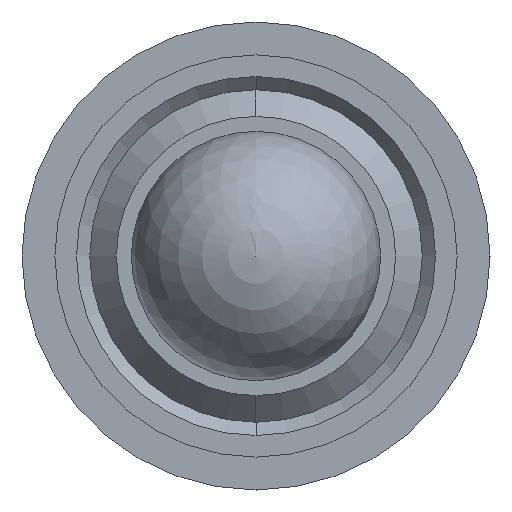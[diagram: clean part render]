
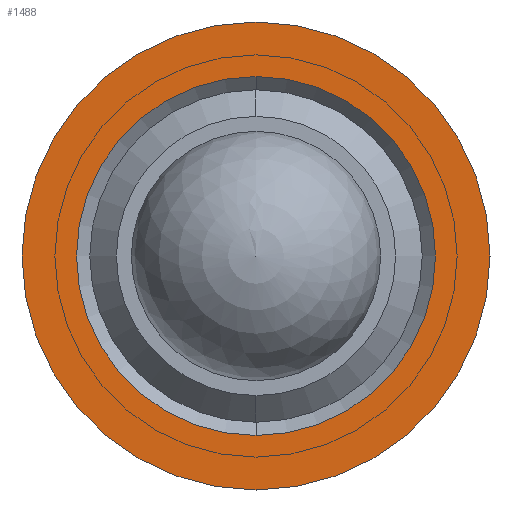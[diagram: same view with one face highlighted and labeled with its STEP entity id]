
A CAD part, left-side view. The second image highlights one B-rep face of the part: STEP entity #1488.
In plain terms, the highlighted planar face has unit normal (-1, 0, 0).
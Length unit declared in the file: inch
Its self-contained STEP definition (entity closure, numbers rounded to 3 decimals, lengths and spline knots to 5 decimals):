
#10 = CARTESIAN_POINT ( 'NONE',  ( 0.60209, 1.99757, 3.07792 ) ) ;
#13 = DIRECTION ( 'NONE',  ( -1., 0., 0. ) ) ;
#46 = CARTESIAN_POINT ( 'NONE',  ( 0.60209, 1.99757, 3.07792 ) ) ;
#55 = CIRCLE ( 'NONE', #1166, 0.135 ) ;
#193 = DIRECTION ( 'NONE',  ( 0., 0., 1. ) ) ;
#230 = AXIS2_PLACEMENT_3D ( 'NONE', #46, #13, #1406 ) ;
#232 = CARTESIAN_POINT ( 'NONE',  ( 0.60209, 1.99757, 3.21292 ) ) ;
#330 = CARTESIAN_POINT ( 'NONE',  ( 0.60209, 1.99757, 3.07792 ) ) ;
#370 = DIRECTION ( 'NONE',  ( 0., 0., -1. ) ) ;
#396 = CARTESIAN_POINT ( 'NONE',  ( 0.60209, 1.99757, 2.94292 ) ) ;
#397 = ORIENTED_EDGE ( 'NONE', *, *, #927, .T. ) ;
#410 = FACE_BOUND ( 'NONE', #1407, .T. ) ;
#486 = VERTEX_POINT ( 'NONE', #1333 ) ;
#577 = EDGE_CURVE ( 'NONE', #680, #486, #1312, .T. ) ;
#591 = DIRECTION ( 'NONE',  ( 0., 0., -1. ) ) ;
#619 = CARTESIAN_POINT ( 'NONE',  ( 0.60209, 1.99757, 3.07792 ) ) ;
#680 = VERTEX_POINT ( 'NONE', #1344 ) ;
#759 = ORIENTED_EDGE ( 'NONE', *, *, #1253, .T. ) ;
#763 = PLANE ( 'NONE',  #783 ) ;
#783 = AXIS2_PLACEMENT_3D ( 'NONE', #10, #1530, #370 ) ;
#857 = ORIENTED_EDGE ( 'NONE', *, *, #1300, .T. ) ;
#861 = CIRCLE ( 'NONE', #1262, 0.176 ) ;
#918 = CIRCLE ( 'NONE', #1338, 0.135 ) ;
#927 = EDGE_CURVE ( 'NONE', #486, #680, #861, .T. ) ;
#1115 = EDGE_LOOP ( 'NONE', ( #1414, #397 ) ) ;
#1155 = VERTEX_POINT ( 'NONE', #396 ) ;
#1166 = AXIS2_PLACEMENT_3D ( 'NONE', #619, #1448, #591 ) ;
#1187 = DIRECTION ( 'NONE',  ( 1., 0., 0. ) ) ;
#1253 = EDGE_CURVE ( 'NONE', #1514, #1155, #55, .T. ) ;
#1262 = AXIS2_PLACEMENT_3D ( 'NONE', #1279, #1347, #193 ) ;
#1279 = CARTESIAN_POINT ( 'NONE',  ( 0.60209, 1.99757, 3.07792 ) ) ;
#1300 = EDGE_CURVE ( 'NONE', #1155, #1514, #918, .T. ) ;
#1312 = CIRCLE ( 'NONE', #230, 0.176 ) ;
#1333 = CARTESIAN_POINT ( 'NONE',  ( 0.60209, 1.99757, 2.90192 ) ) ;
#1338 = AXIS2_PLACEMENT_3D ( 'NONE', #330, #1187, #1439 ) ;
#1344 = CARTESIAN_POINT ( 'NONE',  ( 0.60209, 1.99757, 3.25392 ) ) ;
#1347 = DIRECTION ( 'NONE',  ( -1., 0., 0. ) ) ;
#1406 = DIRECTION ( 'NONE',  ( 0., 0., 1. ) ) ;
#1407 = EDGE_LOOP ( 'NONE', ( #759, #857 ) ) ;
#1414 = ORIENTED_EDGE ( 'NONE', *, *, #577, .T. ) ;
#1426 = FACE_OUTER_BOUND ( 'NONE', #1115, .T. ) ;
#1439 = DIRECTION ( 'NONE',  ( 0., 0., -1. ) ) ;
#1448 = DIRECTION ( 'NONE',  ( 1., 0., 0. ) ) ;
#1488 = ADVANCED_FACE ( 'NONE', ( #410, #1426 ), #763, .F. ) ;
#1514 = VERTEX_POINT ( 'NONE', #232 ) ;
#1530 = DIRECTION ( 'NONE',  ( 1., 0., 0. ) ) ;
